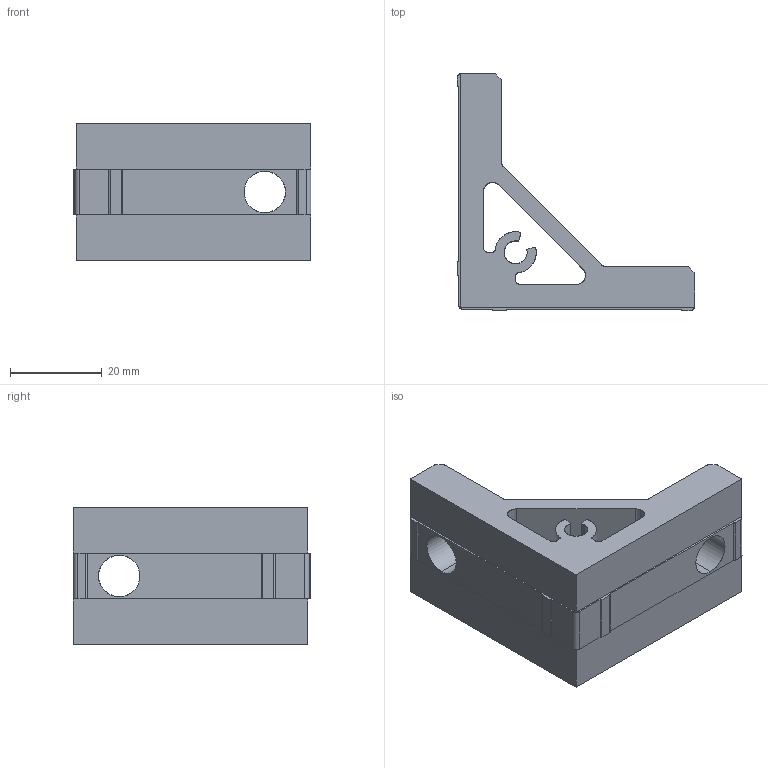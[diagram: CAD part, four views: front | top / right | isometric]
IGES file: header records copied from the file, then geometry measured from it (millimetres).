
Start section: SolidWorks IGES file using analytic representation for surfaces
Global section: file name: C:\Documents and Settings\SugataY\デスクトップ\コピー ～ SFJ-N64\SFJ-B64-IGS.IGS; native system: SolidWorks 2011; preprocessor: SolidWorks 2011; author: SugataY; date: 140310.151731; units: millimetre
Bounding box: 51.7 x 51.7 x 30 mm (x, y, z)
Surface area: 10698.6 mm2 (no closed solid volume)
Topology: 0 solids, 0 shells, 63 faces, 720 edges, 720 vertices
Faces by surface type: revolution 33, bspline 30
